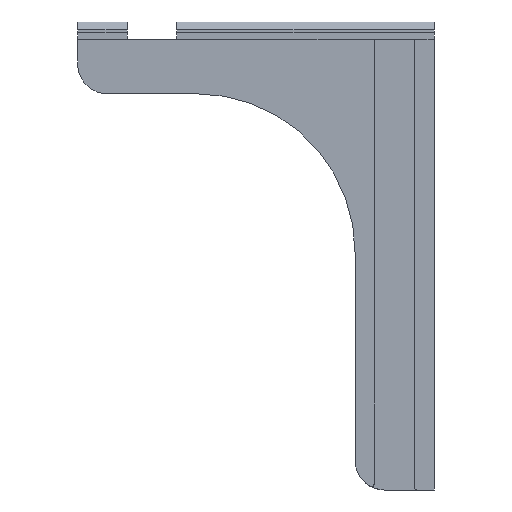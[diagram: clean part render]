
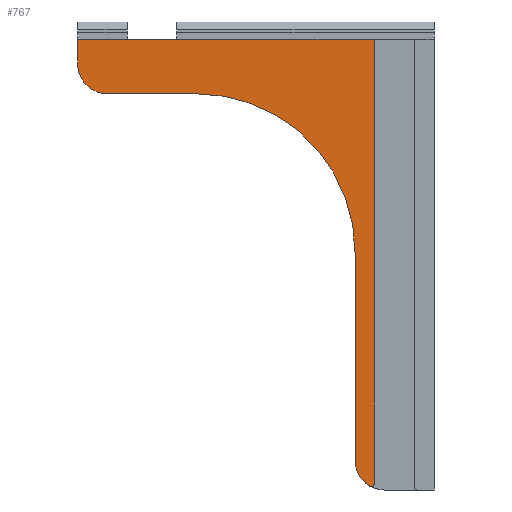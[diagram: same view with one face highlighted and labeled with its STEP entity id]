
A CAD part, left-side view. The second image highlights one B-rep face of the part: STEP entity #767.
In plain terms, the highlighted planar face has unit normal (-1, 0, 0).
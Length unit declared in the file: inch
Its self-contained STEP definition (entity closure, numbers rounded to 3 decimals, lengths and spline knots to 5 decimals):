
#51 = CARTESIAN_POINT ( 'NONE',  ( -0.375, 0.79125, -5.92587 ) ) ;
#74 = ORIENTED_EDGE ( 'NONE', *, *, #166, .T. ) ;
#83 = ORIENTED_EDGE ( 'NONE', *, *, #571, .F. ) ;
#93 = EDGE_CURVE ( 'NONE', #1155, #826, #334, .T. ) ;
#124 = CARTESIAN_POINT ( 'NONE',  ( -0.375, 4.5, 0. ) ) ;
#143 = DIRECTION ( 'NONE',  ( 0., 0., 1. ) ) ;
#145 = DIRECTION ( 'NONE',  ( 0., 0., 1. ) ) ;
#156 = DIRECTION ( 'NONE',  ( 1., 0., 0. ) ) ;
#166 = EDGE_CURVE ( 'NONE', #343, #1066, #347, .T. ) ;
#202 = CARTESIAN_POINT ( 'NONE',  ( -0.375, 3., -3. ) ) ;
#239 = VECTOR ( 'NONE', #732, 39.37008 ) ;
#264 = EDGE_LOOP ( 'NONE', ( #1189, #74, #83, #1144, #659, #1375, #1178, #670, #1280 ) ) ;
#289 = DIRECTION ( 'NONE',  ( 0., 1., 0. ) ) ;
#298 = VECTOR ( 'NONE', #289, 39.37008 ) ;
#313 = DIRECTION ( 'NONE',  ( -1., 0., 0. ) ) ;
#323 = CARTESIAN_POINT ( 'NONE',  ( -0.375, 0.76, -6. ) ) ;
#326 = VERTEX_POINT ( 'NONE', #468 ) ;
#334 = CIRCLE ( 'NONE', #1400, 0.375 ) ;
#343 = VERTEX_POINT ( 'NONE', #1413 ) ;
#347 = CIRCLE ( 'NONE', #475, 0.03125 ) ;
#354 = EDGE_CURVE ( 'NONE', #343, #326, #573, .T. ) ;
#402 = VECTOR ( 'NONE', #1497, 39.37008 ) ;
#438 = DIRECTION ( 'NONE',  ( -1., 0., 0. ) ) ;
#442 = DIRECTION ( 'NONE',  ( 0., 0., 1. ) ) ;
#468 = CARTESIAN_POINT ( 'NONE',  ( -0.375, 1., -5.625 ) ) ;
#475 = AXIS2_PLACEMENT_3D ( 'NONE', #51, #313, #1494 ) ;
#483 = VERTEX_POINT ( 'NONE', #1116 ) ;
#513 = LINE ( 'NONE', #124, #987 ) ;
#529 = EDGE_CURVE ( 'NONE', #1142, #1519, #602, .T. ) ;
#571 = EDGE_CURVE ( 'NONE', #1142, #1066, #777, .T. ) ;
#573 = CIRCLE ( 'NONE', #757, 0.375 ) ;
#584 = FACE_OUTER_BOUND ( 'NONE', #264, .T. ) ;
#599 = CARTESIAN_POINT ( 'NONE',  ( -0.375, 0.625, -5.625 ) ) ;
#602 = LINE ( 'NONE', #641, #298 ) ;
#618 = DIRECTION ( 'NONE',  ( 0., 0., 1. ) ) ;
#619 = DIRECTION ( 'NONE',  ( 0., 0., 1. ) ) ;
#630 = CARTESIAN_POINT ( 'NONE',  ( -0.375, 0.76, -0.314 ) ) ;
#640 = AXIS2_PLACEMENT_3D ( 'NONE', #202, #438, #1510 ) ;
#641 = CARTESIAN_POINT ( 'NONE',  ( -0.375, 0., -0.314 ) ) ;
#659 = ORIENTED_EDGE ( 'NONE', *, *, #1078, .F. ) ;
#667 = VERTEX_POINT ( 'NONE', #1218 ) ;
#670 = ORIENTED_EDGE ( 'NONE', *, *, #792, .F. ) ;
#714 = AXIS2_PLACEMENT_3D ( 'NONE', #925, #1145, #442 ) ;
#719 = CARTESIAN_POINT ( 'NONE',  ( -0.375, 0.76, -5.92587 ) ) ;
#732 = DIRECTION ( 'NONE',  ( 0., 1., 0. ) ) ;
#757 = AXIS2_PLACEMENT_3D ( 'NONE', #599, #1463, #619 ) ;
#767 = ADVANCED_FACE ( 'NONE', ( #584 ), #920, .T. ) ;
#777 = LINE ( 'NONE', #323, #402 ) ;
#792 = EDGE_CURVE ( 'NONE', #483, #667, #934, .T. ) ;
#811 = CARTESIAN_POINT ( 'NONE',  ( -0.375, 4.125, -1. ) ) ;
#826 = VERTEX_POINT ( 'NONE', #1089 ) ;
#861 = CARTESIAN_POINT ( 'NONE',  ( -0.375, 1., -3. ) ) ;
#870 = EDGE_CURVE ( 'NONE', #326, #483, #1059, .T. ) ;
#876 = LINE ( 'NONE', #811, #239 ) ;
#920 = PLANE ( 'NONE',  #714 ) ;
#925 = CARTESIAN_POINT ( 'NONE',  ( -0.375, 0.625, -5.625 ) ) ;
#931 = CARTESIAN_POINT ( 'NONE',  ( -0.375, 4.5, -0.314 ) ) ;
#934 = CIRCLE ( 'NONE', #640, 2. ) ;
#987 = VECTOR ( 'NONE', #618, 39.37008 ) ;
#995 = EDGE_CURVE ( 'NONE', #667, #1155, #876, .T. ) ;
#1059 = LINE ( 'NONE', #861, #1337 ) ;
#1066 = VERTEX_POINT ( 'NONE', #719 ) ;
#1078 = EDGE_CURVE ( 'NONE', #826, #1519, #513, .T. ) ;
#1089 = CARTESIAN_POINT ( 'NONE',  ( -0.375, 4.5, -0.625 ) ) ;
#1116 = CARTESIAN_POINT ( 'NONE',  ( -0.375, 1., -3. ) ) ;
#1142 = VERTEX_POINT ( 'NONE', #630 ) ;
#1144 = ORIENTED_EDGE ( 'NONE', *, *, #529, .T. ) ;
#1145 = DIRECTION ( 'NONE',  ( -1., 0., 0. ) ) ;
#1155 = VERTEX_POINT ( 'NONE', #1236 ) ;
#1178 = ORIENTED_EDGE ( 'NONE', *, *, #995, .F. ) ;
#1189 = ORIENTED_EDGE ( 'NONE', *, *, #354, .F. ) ;
#1218 = CARTESIAN_POINT ( 'NONE',  ( -0.375, 3., -1. ) ) ;
#1236 = CARTESIAN_POINT ( 'NONE',  ( -0.375, 4.125, -1. ) ) ;
#1280 = ORIENTED_EDGE ( 'NONE', *, *, #870, .F. ) ;
#1337 = VECTOR ( 'NONE', #145, 39.37008 ) ;
#1344 = CARTESIAN_POINT ( 'NONE',  ( -0.375, 4.125, -0.625 ) ) ;
#1375 = ORIENTED_EDGE ( 'NONE', *, *, #93, .F. ) ;
#1400 = AXIS2_PLACEMENT_3D ( 'NONE', #1344, #156, #143 ) ;
#1413 = CARTESIAN_POINT ( 'NONE',  ( -0.375, 0.80636, -5.95323 ) ) ;
#1463 = DIRECTION ( 'NONE',  ( 1., 0., 0. ) ) ;
#1494 = DIRECTION ( 'NONE',  ( 0., 0., 1. ) ) ;
#1497 = DIRECTION ( 'NONE',  ( 0., 0., -1. ) ) ;
#1510 = DIRECTION ( 'NONE',  ( 0., 0., -1. ) ) ;
#1519 = VERTEX_POINT ( 'NONE', #931 ) ;
